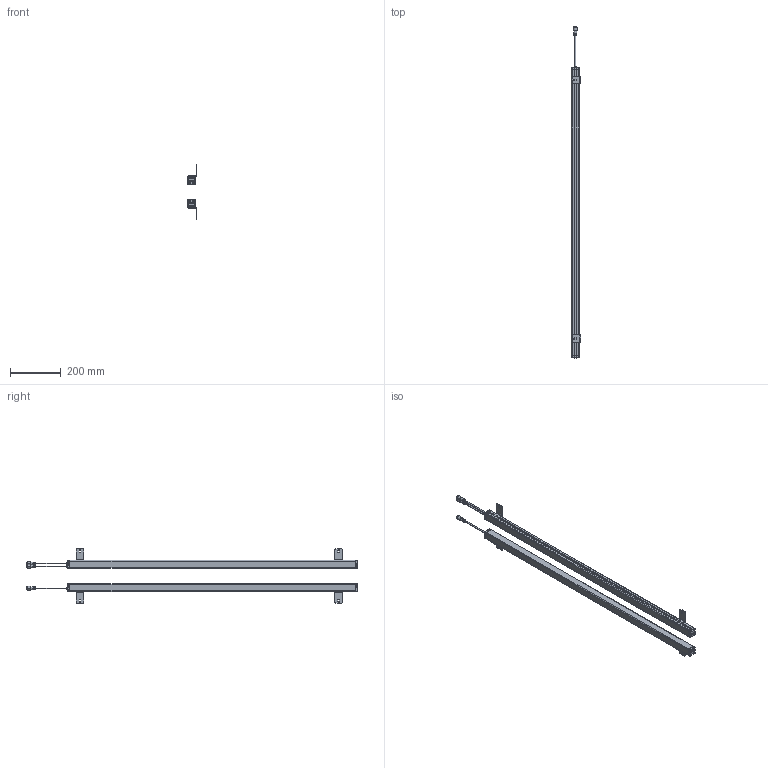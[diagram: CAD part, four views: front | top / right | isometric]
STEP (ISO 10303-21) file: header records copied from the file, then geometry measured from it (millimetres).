
FILE_DESCRIPTION(/* description */ (''),/* implementation_level */ '2;1');
FILE_NAME(/* name */ 'THZ10-110.stp',/* time_stamp */ '2024-10-21T16:08:07+08:00',/* author */ (''),/* organization */ (''),/* preprocessor_version */ 'ST-DEVELOPER v16',/* originating_system */ 'SIEMENS PLM Software NX 11.0',/* authorisation */ '');
FILE_SCHEMA (('AP203_CONFIGURATION_CONTROLLED_3D_DESIGN_OF_MECHANICAL_PARTS_AND_ASSEMBLIES_MIM_LF { 1 0 10303 403 2 1 2}'));
Length unit declared in the file: millimetre
Products named in the file (12): MANIFOLD_SOLID_BREP_108_5; 100_516375; 1_WIRE_535795; MANIFOLD_SOLID_BREP_109_5; 100_5; 1_WIRE_5; MANIFOLD_SOLID_BREP_107_5; MANIFOLD_SOLID_BREP_106_5; THW-THS L型侧装片; THZ20-12S; THZ20-12F; THZ10-74_stp
Assembly tree (15 placements, depth 3):
  THZ10-74_stp
    THW-THS L型侧装片  x4
    THZ20-12F
      MANIFOLD_SOLID_BREP_106_5
      MANIFOLD_SOLID_BREP_107_5
      1_WIRE_5
      100_5
    THZ20-12S
      MANIFOLD_SOLID_BREP_109_5
      1_WIRE_535795  x2
      100_516375
      MANIFOLD_SOLID_BREP_108_5
Bounding box: 36.1 x 1307.98 x 214.15 mm (x, y, z)
Volume: 1003791 mm3; surface area: 579464.8 mm2
Topology: 21 solids, 21 shells, 1296 faces, 3637 edges, 2418 vertices
Faces by surface type: plane 850, cylinder 369, torus 36, bspline 33, cone 8
Entity records: 41660 total; most frequent: CARTESIAN_POINT 9020, ORIENTED_EDGE 6710, DIRECTION 6250, EDGE_CURVE 3355, LINE 2396, VECTOR 2396, VERTEX_POINT 2226, AXIS2_PLACEMENT_3D 1927
